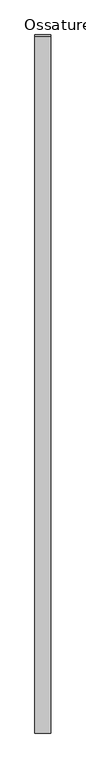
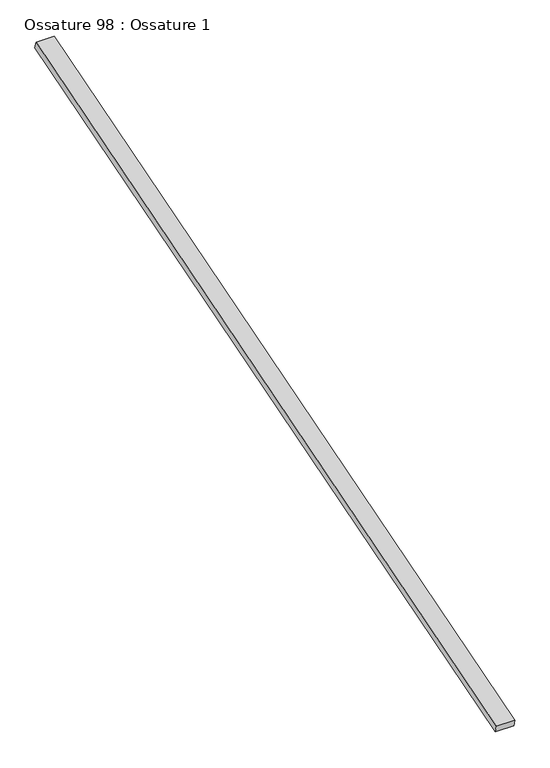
"""IFC4 building model written with IfcOpenShell, lengths in millimetres: beam geometry, Ossature 98 : Ossature 1."""

from ifc_helpers import new_model, si_unit, frame, origin, place, context, project, spatial, polyline, outline, extrude, source, transform, mapped, element, save


def ossature_98_ossature_1_9d97fd1c(model_context):
    return source(origin(), model_context, "Body", "SweptSolid", [
        extrude(outline(polyline([(0.0, 0.0), (0.0, -4543.0299679), (-100.0, -4543.0299679), (-100.0, 0.0), (0.0, 0.0)])), frame((23620.0466393, -833.3913565, 8153.6336115), z_axis=(0.0, -0.28734788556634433, 0.9578262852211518), x_axis=(-1.0, 0.0, 0.0)), (0.0, 0.0, 1.0), 40.0),
    ])


if __name__ == "__main__":
    model = new_model("IFC4")
    model_context = context("Model", 3, world=origin())
    ifc_project = project(units=[si_unit("LENGTHUNIT", "METRE", prefix="MILLI")], contexts=[model_context])
    site = spatial("IfcSite", under=ifc_project)
    building = spatial("IfcBuilding", under=site)
    placement = place(None, origin())
    ossature_98_ossature_1_shape = ossature_98_ossature_1_9d97fd1c(model_context)
    element("IfcBeam", 1, ObjectType="Ossature 98 : Ossature 1", at=placement, inside=building, context=model_context, shape_type="MappedRepresentation", body=[
        mapped(ossature_98_ossature_1_shape, transform((0.0, 0.0, 0.0), x_axis=(1.0, 0.0, 0.0), y_axis=(0.0, 1.0, 0.0), z_axis=(0.0, 0.0, 1.0))),
    ])
    save(model, "model.ifc")
